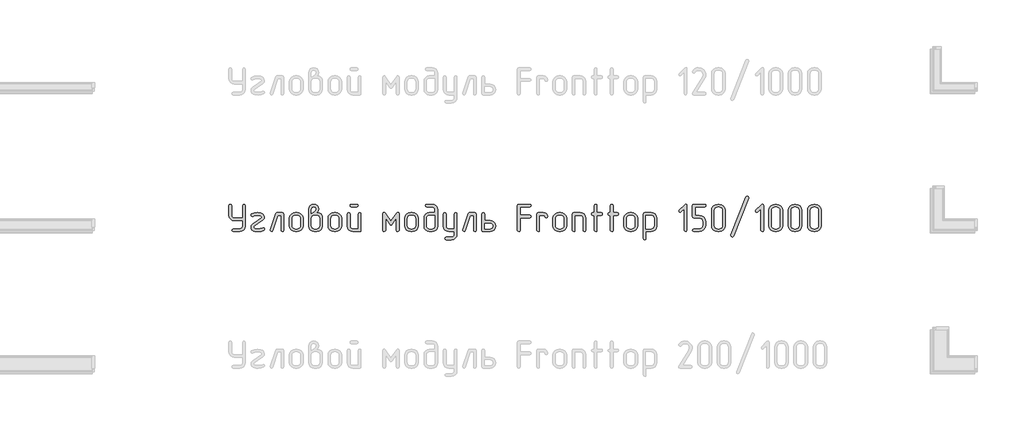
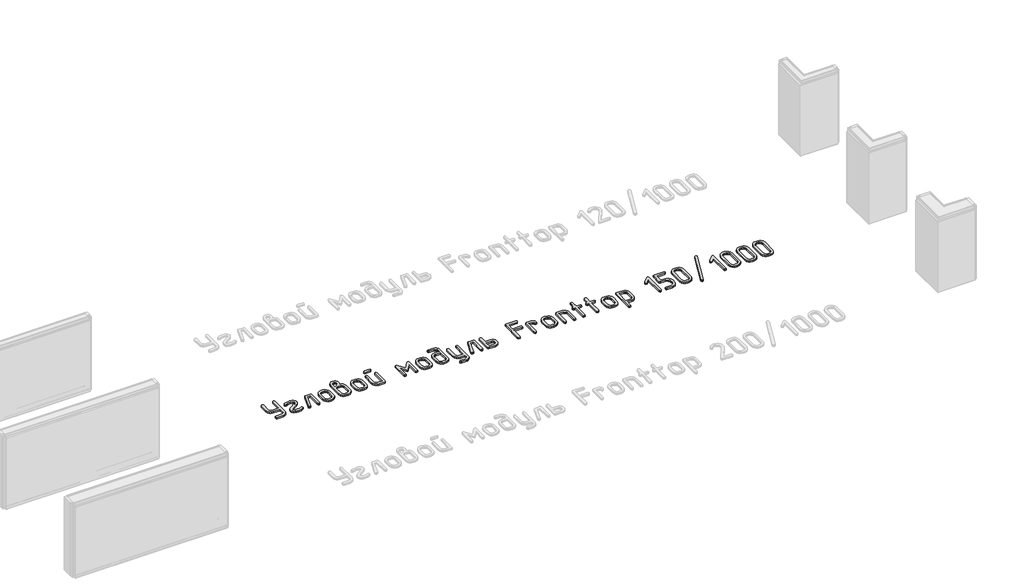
# One storey, part 32 of 37: 1 proxy.
"""IFC4 building model written with IfcOpenShell, lengths in millimetres."""

import ifcopenshell
import ifcopenshell.guid

model = None  # the IFC model being written
_history = None  # IfcOwnerHistory: only IFC2X3 demands one
_inside = {}  # id of a spatial element -> (the spatial element, [elements in it])
_under = {}  # id of a project, library or spatial element -> (it, [spatial elements below it])
_declared = {}  # id of a project -> (the project, [libraries it declares])
_typed = {}  # id of a type object -> (the type object, [elements of that type])
_made_of = {}  # id of a material, layer set ... -> (it, [elements and type objects made of it])


def new_model(schema):
    """Start an empty IFC model of exactly this schema.

    Asked for "IFC4X3", IfcOpenShell would pick the latest addendum, in which some entities
    have other attributes; the version numbers below select the first issue.
    IFC2X3 requires an IfcOwnerHistory on every rooted entity: one is made here for all.
    """
    global model, _history
    if schema == "IFC4X3":
        model = ifcopenshell.file(schema_version=(4, 3, 0, 0))
    else:
        model = ifcopenshell.file(schema=schema)
    _inside.clear()
    _under.clear()
    _declared.clear()
    _typed.clear()
    _made_of.clear()
    _history = None
    if model.schema == "IFC2X3":
        org = make("IfcOrganization", Name="unknown")
        user = make(
            "IfcPersonAndOrganization",
            ThePerson=make("IfcPerson", FamilyName="unknown"),
            TheOrganization=org,
        )
        app = make(
            "IfcApplication",
            ApplicationDeveloper=org,
            Version="unknown",
            ApplicationFullName="unknown",
            ApplicationIdentifier="unknown",
        )
        _history = make(
            "IfcOwnerHistory",
            OwningUser=user,
            OwningApplication=app,
            ChangeAction="ADDED",
            CreationDate=0,
        )
    return model


def make(cls, **values):
    """One entity of the class cls with the attributes given. An attribute that is None is left unset."""
    return model.create_entity(
        cls, **{name: value for name, value in values.items() if value is not None}
    )


def rooted(cls, **values):
    """An entity with a GlobalId (a new one), such as an element, a storey or a relation."""
    return make(cls, GlobalId=ifcopenshell.guid.new(), OwnerHistory=_history, **values)


def si_unit(unit_type, name, prefix=None):
    """IfcSIUnit, for example si_unit("LENGTHUNIT", "METRE", prefix="MILLI")."""
    return make("IfcSIUnit", UnitType=unit_type, Prefix=prefix, Name=name)


def assignment(units):
    """IfcUnitAssignment: the units of a project."""
    return None if units is None else make("IfcUnitAssignment", Units=units)


def point(xyz):
    """IfcCartesianPoint."""
    return None if xyz is None else make("IfcCartesianPoint", Coordinates=xyz)


def direction(xyz):
    """IfcDirection."""
    return None if xyz is None else make("IfcDirection", DirectionRatios=xyz)


def frame(location, z_axis=None, x_axis=None):
    """IfcAxis2Placement3D, a coordinate frame: its origin and axes. An axis left out is left unset."""
    return make(
        "IfcAxis2Placement3D",
        Location=point(location),
        Axis=direction(z_axis),
        RefDirection=direction(x_axis),
    )


def origin():
    """The frame at (0, 0, 0) with its axes left unset."""
    return frame((0.0, 0.0, 0.0))


def origin_with_axes():
    """The frame at (0, 0, 0) with the z axis (0, 0, 1) and the x axis (1, 0, 0) written out."""
    return frame((0.0, 0.0, 0.0), z_axis=(0.0, 0.0, 1.0), x_axis=(1.0, 0.0, 0.0))


def place(relative_to, where):
    """IfcLocalPlacement: puts the frame where relative to a parent placement (None: the world)."""
    return make(
        "IfcLocalPlacement", PlacementRelTo=relative_to, RelativePlacement=where
    )


def context(
    kind, dimensions, precision=None, world=None, true_north=None, identifier=None
):
    """IfcGeometricRepresentationContext, for example the 3D "Model" context."""
    return make(
        "IfcGeometricRepresentationContext",
        ContextIdentifier=identifier,
        ContextType=kind,
        CoordinateSpaceDimension=dimensions,
        Precision=precision,
        WorldCoordinateSystem=world,
        TrueNorth=true_north,
    )


def project(units=None, contexts=None):
    """IfcProject with its units and contexts."""
    return rooted(
        "IfcProject",
        Name="project",
        RepresentationContexts=contexts,
        UnitsInContext=assignment(units),
    )


def spatial(cls, under=None, at=None, **own):
    """A site, building, storey or space (cls), placed at a placement, below another one or the project."""
    s = rooted(cls, ObjectPlacement=at, **own)
    if under is not None:
        _under.setdefault(under.id(), (under, []))[1].append(s)
    return s


def polyline(points):
    """IfcPolyline through the points."""
    return make("IfcPolyline", Points=[point(p) for p in points])


def outline(outer, holes=None, kind="AREA"):
    """IfcArbitraryClosedProfileDef: a profile drawn as a closed curve; with holes, ...WithVoids."""
    if holes is None:
        return make("IfcArbitraryClosedProfileDef", ProfileType=kind, OuterCurve=outer)
    return make(
        "IfcArbitraryProfileDefWithVoids",
        ProfileType=kind,
        OuterCurve=outer,
        InnerCurves=holes,
    )


def extrude(swept, where, along, depth):
    """IfcExtrudedAreaSolid: the profile swept, set in the frame where, extruded along a direction by depth."""
    return make(
        "IfcExtrudedAreaSolid",
        SweptArea=swept,
        Position=where,
        ExtrudedDirection=direction(along),
        Depth=depth,
    )


def shape(context_of_items, identifier, shape_type, items):
    """IfcShapeRepresentation: the items that make up one representation, for example the "Body"."""
    return make(
        "IfcShapeRepresentation",
        ContextOfItems=context_of_items,
        RepresentationIdentifier=identifier,
        RepresentationType=shape_type,
        Items=items,
    )


def made_of(thing, what):
    """Note that an element or type object is made of a material, layer set ...; save() writes the relation."""
    if what is not None:
        _made_of.setdefault(what.id(), (what, []))[1].append(thing)
    return thing


def element(
    cls,
    number,
    at=None,
    inside=None,
    cuts=None,
    type_object=None,
    material=None,
    context=None,
    identifier="Body",
    shape_type=None,
    held_by="IfcProductDefinitionShape",
    body=None,
    shapes=None,
    **own,
):
    """One element of the class cls, such as IfcWall. Its Tag is "e" and its number.

    at: its placement. inside: the storey or other place that contains it. cuts: it is an
    opening in that element (IfcRelVoidsElement). A single representation is given by context,
    identifier, shape_type and body (its items); several are given by shapes. held_by: the class
    of the entity that holds the representations. save() writes the other relations.
    """
    e = rooted(cls, Tag="e%d" % number, ObjectPlacement=at, **own)
    if body is not None:
        shapes = [shape(context, identifier, shape_type, body)]
    if shapes is not None:
        e.Representation = make(held_by, Representations=shapes)
    if inside is not None:
        _inside.setdefault(inside.id(), (inside, []))[1].append(e)
    if cuts is not None:
        rooted(
            "IfcRelVoidsElement", RelatingBuildingElement=cuts, RelatedOpeningElement=e
        )
    if type_object is not None:
        _typed.setdefault(type_object.id(), (type_object, []))[1].append(e)
    return made_of(e, material)


def aggregate(whole, parts):
    """IfcRelAggregates: a whole, such as a stair, and the parts it consists of."""
    return rooted("IfcRelAggregates", RelatingObject=whole, RelatedObjects=parts)


def save(model, path):
    """Write the relations noted so far, then the file.

    IfcRelAggregates (storeys below a building ...), IfcRelContainedInSpatialStructure (elements
    in a storey), IfcRelDefinesByType, IfcRelAssociatesMaterial and IfcRelDeclares: one each for
    every whole, place, type object, material and project.
    """
    for whole, parts in _under.values():
        aggregate(whole, parts)
    for where, things in _inside.values():
        rooted(
            "IfcRelContainedInSpatialStructure",
            RelatedElements=things,
            RelatingStructure=where,
        )
    for kind, things in _typed.values():
        rooted("IfcRelDefinesByType", RelatedObjects=things, RelatingType=kind)
    for what, things in _made_of.values():
        rooted("IfcRelAssociatesMaterial", RelatedObjects=things, RelatingMaterial=what)
    for by, libraries in _declared.values():
        rooted("IfcRelDeclares", RelatingContext=by, RelatedDefinitions=libraries)
    model.write(path)


model = new_model("IFC4")

# Units and contexts
model_context = context("Model", 3, world=origin())
ifc_project = project(units=[si_unit("LENGTHUNIT", "METRE", prefix="MILLI")], contexts=[model_context])

# Site, building, storey
site = spatial("IfcSite", under=ifc_project)
building = spatial("IfcBuilding", under=site)
storey = spatial("IfcBuildingStorey", under=building, Name="Этаж 01", Elevation=0.0)

# Proxy
placement = place(None, origin())
element("IfcBuildingElementProxy", 1, Name="300 мм ГОСТ 2.304", ObjectType="300 мм ГОСТ 2.304", at=placement, inside=storey, context=model_context, shape_type="SweptSolid", body=[
    extrude(outline(polyline([(64282.5947081, -22108.7261154), (64192.9398643, -22108.7261154), (64169.869135, -22104.3522505), (64150.5152523, -22091.2306559), (64137.3936577, -22071.8767732), (64133.0197928, -22048.8060439), (64133.0197928, -21944.2838139), (64137.4124296, -21933.1332743), (64148.3377058, -21928.9659009), (64158.6247356, -21932.9080109), (64163.205092, -21944.2838139), (64163.205092, -22048.8060439), (64165.3357086, -22060.4540402), (64171.7275583, -22070.0183499), (64181.2918679, -22076.4101996), (64192.9398643, -22078.5408162), (64282.5947081, -22078.5408162), (64282.5947081, -21944.2838139), (64286.949801, -21933.1332743), (64297.4620942, -21928.9659009), (64307.9368436, -21932.9080109), (64312.3294804, -21944.2838139), (64312.3294804, -22168.19566), (64307.9556155, -22191.6042844), (64294.8340209, -22211.0707988), (64275.8180333, -22223.8544983), (64252.8599358, -22228.1157314), (64178.0724781, -22228.1157314), (64167.147202, -22223.7606385), (64163.205092, -22213.2483453), (64166.9219385, -22202.736052), (64178.0724781, -22198.3809591), (64252.8599358, -22198.3809591), (64264.2263528, -22196.1940267), (64273.8469783, -22189.6332294), (64280.4077756, -22179.8999722), (64282.5947081, -22168.19566), (64282.5947081, -22108.7261154)])), origin_with_axes(), (0.0, 0.0, 1.0), 20.0),
    extrude(outline(polyline([(64514.9914765, -22214.524838), (64485.4444237, -22225.0746752), (64451.6173658, -22228.5662583), (64430.8180428, -22227.4774851), (64413.0973199, -22224.5866044), (64396.8408093, -22219.4524755), (64384.8643037, -22209.3062353), (64377.4869265, -22195.6496401), (64375.0278008, -22179.984446), (64378.9699108, -22160.7619669), (64391.2467675, -22144.618088), (64486.5331969, -22078.991343), (64491.4139045, -22069.8306304), (64487.5844263, -22060.4071103), (64476.0959915, -22054.0621905), (64442.3815653, -22049.7070976), (64416.2510079, -22052.4290307), (64397.32888, -22060.5948299), (64388.1681673, -22064.1239569), (64377.693418, -22059.5436005), (64373.3007812, -22048.355517), (64379.4579815, -22037.0172579), (64408.0664367, -22024.777945), (64445.0096386, -22020.4228521), (64450.2657853, -22020.4228521), (64479.1370478, -22023.9144352), (64501.85111, -22033.7509382), (64516.7184961, -22049.0313073), (64521.9746427, -22068.9295767), (64517.7134096, -22086.6315276), (64504.9297101, -22102.193476), (64409.5681929, -22168.19566), (64404.3871341, -22179.6090069), (64408.1039806, -22189.8584928), (64417.9029396, -22195.7528858), (64434.3096259, -22197.5174493), (64451.9928049, -22198.3809591), (64478.4612575, -22196.2034127), (64501.0251441, -22187.8686659), (64508.4588371, -22186.1416463), (64519.1588499, -22190.7220026), (64523.3262233, -22201.9100861), (64521.2425366, -22209.1936036), (64514.9914765, -22214.524838)])), origin_with_axes(), (0.0, 0.0, 1.0), 20.0),
    extrude(outline(polyline([(64734.3229662, -22213.2483453), (64730.1555928, -22224.3988849), (64719.45558, -22228.1157314), (64708.9432868, -22224.1736215), (64704.5881939, -22213.2483453), (64704.5881939, -22048.8060439), (64670.0478018, -22048.8060439), (64614.0322964, -22218.0539651), (64608.5884303, -22225.4876581), (64600.5164908, -22228.1157314), (64589.7789341, -22224.1736215), (64585.1985778, -22213.6988721), (64586.0996315, -22208.4427255), (64645.1186493, -22029.133038), (64650.4498837, -22021.5867132), (64659.5355086, -22019.0712716), (64719.45558, -22019.0712716), (64730.6061197, -22022.7881181), (64734.3229662, -22033.9386577), (64734.3229662, -22213.2483453)])), origin_with_axes(), (0.0, 0.0, 1.0), 20.0),
    extrude(outline(polyline([(64945.7702359, -22162.4889865), (64940.9646162, -22187.9812976), (64926.5477569, -22209.3437792), (64905.5231704, -22223.4227434), (64880.143491, -22228.1157314), (64862.1975047, -22228.1157314), (64836.7615094, -22223.4227434), (64815.4177998, -22209.3437792), (64801.0009405, -22187.9812976), (64796.1953207, -22162.4889865), (64796.1953207, -22084.6980165), (64801.0009405, -22059.5436005), (64815.4177998, -22038.2937506), (64837.1744924, -22023.8768913), (64862.1975047, -22019.0712716), (64880.143491, -22019.0712716), (64905.288521, -22023.8862773), (64926.510213, -22038.3312945), (64940.9552302, -22059.5529865), (64945.7702359, -22084.6980165), (64945.7702359, -22162.4889865)]), holes=[polyline([(64916.0354636, -22162.4889865), (64916.0354636, -22084.6980165), (64913.4073903, -22070.9194036), (64905.5231704, -22059.3183371), (64893.9221039, -22051.4341172), (64880.143491, -22048.8060439), (64862.1975047, -22048.8060439), (64848.4282777, -22051.4341172), (64836.8553692, -22059.3183371), (64828.9993072, -22070.9194036), (64826.3806199, -22084.6980165), (64826.3806199, -22162.4889865), (64828.9993072, -22176.2675994), (64836.8553692, -22187.8686659), (64848.4282777, -22195.7528858), (64862.1975047, -22198.3809591), (64880.143491, -22198.3809591), (64893.9221039, -22195.7528858), (64905.5231704, -22187.8686659), (64913.4073903, -22176.2675994), (64916.0354636, -22162.4889865)])]), origin_with_axes(), (0.0, 0.0, 1.0), 20.0),
    extrude(outline(polyline([(65097.2974342, -22019.9723253), (65122.7897453, -22024.2335584), (65142.3501195, -22037.0172579), (65153.5006592, -22055.057104), (65157.2175057, -22078.5408162), (65157.2175057, -22168.19566), (65152.8436408, -22191.6042844), (65139.7220462, -22211.0707988), (65120.5934269, -22223.8544983), (65097.2974342, -22228.1157314), (65067.5626619, -22228.1157314), (65044.4919326, -22223.8544983), (65025.1380499, -22211.0707988), (65012.0164553, -22191.6042844), (65007.6425905, -22168.19566), (65007.6425905, -21983.2543867), (65011.9038236, -21960.3901489), (65024.6875231, -21942.5567943), (65041.4133325, -21932.3636243), (65061.8559884, -21928.9659009), (65081.9607493, -21932.3636243), (65098.573927, -21942.5567943), (65111.0760472, -21960.2775172), (65115.2434206, -21982.8038599), (65111.0760472, -22004.8421318), (65097.2974342, -22019.9723253)]), holes=[polyline([(65127.4827334, -22168.19566), (65127.4827334, -22078.5408162), (65125.295801, -22067.1743991), (65118.7350037, -22057.5537736), (65109.0017464, -22050.9929763), (65097.2974342, -22048.8060439), (65067.5626619, -22048.8060439), (65055.9146656, -22050.9929763), (65046.3503559, -22057.5537736), (65039.9585062, -22067.1743991), (65037.8278896, -22078.5408162), (65037.8278896, -22168.19566), (65039.9585062, -22179.8999722), (65046.3503559, -22189.6332294), (65055.9146656, -22196.1940267), (65067.5626619, -22198.3809591), (65097.2974342, -22198.3809591), (65109.0017464, -22196.1940267), (65118.7350037, -22189.6332294), (65125.295801, -22179.8999722), (65127.4827334, -22168.19566)]), polyline([(65037.8278896, -22029.133038), (65044.8110558, -22025.0032085), (65050.0672025, -22021.248818), (65060.1289688, -22014.0403884), (65067.5626619, -22008.5589783), (65079.8019748, -21997.671246), (65085.5086482, -21983.2543867), (65083.7065408, -21973.1644624), (65078.3002186, -21965.7213834), (65070.4723145, -21961.1316411), (65061.4054616, -21959.601727), (65052.4512404, -21961.1316411), (65044.8110558, -21965.7213834), (65039.5736812, -21973.1644624), (65037.8278896, -21983.2543867), (65037.8278896, -22029.133038)])]), origin_with_axes(), (0.0, 0.0, 1.0), 20.0),
    extrude(outline(polyline([(65368.6647755, -22162.4889865), (65363.8591557, -22187.9812976), (65349.4422964, -22209.3437792), (65328.4177099, -22223.4227434), (65303.0380305, -22228.1157314), (65285.0920442, -22228.1157314), (65259.6560489, -22223.4227434), (65238.3123393, -22209.3437792), (65223.89548, -22187.9812976), (65219.0898602, -22162.4889865), (65219.0898602, -22084.6980165), (65223.89548, -22059.5436005), (65238.3123393, -22038.2937506), (65260.0690319, -22023.8768913), (65285.0920442, -22019.0712716), (65303.0380305, -22019.0712716), (65328.1830605, -22023.8862773), (65349.4047525, -22038.3312945), (65363.8497697, -22059.5529865), (65368.6647755, -22084.6980165), (65368.6647755, -22162.4889865)]), holes=[polyline([(65338.9300032, -22162.4889865), (65338.9300032, -22084.6980165), (65336.3019298, -22070.9194036), (65328.4177099, -22059.3183371), (65316.8166434, -22051.4341172), (65303.0380305, -22048.8060439), (65285.0920442, -22048.8060439), (65271.3228172, -22051.4341172), (65259.7499087, -22059.3183371), (65251.8938467, -22070.9194036), (65249.2751594, -22084.6980165), (65249.2751594, -22162.4889865), (65251.8938467, -22176.2675994), (65259.7499087, -22187.8686659), (65271.3228172, -22195.7528858), (65285.0920442, -22198.3809591), (65303.0380305, -22198.3809591), (65316.8166434, -22195.7528858), (65328.4177099, -22187.8686659), (65336.3019298, -22176.2675994), (65338.9300032, -22162.4889865)])]), origin_with_axes(), (0.0, 0.0, 1.0), 20.0),
    extrude(outline(polyline([(65535.5098868, -21959.1512001), (65475.5898153, -21959.1512001), (65464.6645391, -21954.7961072), (65460.7224291, -21944.2838139), (65464.4392757, -21933.5838012), (65475.5898153, -21928.9659009), (65535.5098868, -21928.9659009), (65546.6604264, -21933.3585378), (65550.3772729, -21944.2838139), (65546.4351629, -21954.5708438), (65535.5098868, -21959.1512001)])), origin_with_axes(), (0.0, 0.0, 1.0), 20.0),
    extrude(outline(polyline([(65580.1120452, -22213.2483453), (65576.3951987, -22224.3988849), (65565.2446591, -22228.1157314), (65490.4572014, -22228.1157314), (65467.3864722, -22223.8544983), (65448.0325894, -22211.0707988), (65434.9109948, -22191.6042844), (65430.53713, -22168.19566), (65430.53713, -22033.9386577), (65434.9297668, -22023.0133815), (65445.855043, -22019.0712716), (65456.1420728, -22022.7881181), (65460.7224291, -22033.9386577), (65460.7224291, -22168.19566), (65462.8530457, -22179.8999722), (65469.2448954, -22189.6332294), (65478.8092051, -22196.1940267), (65490.4572014, -22198.3809591), (65550.3772729, -22198.3809591), (65550.3772729, -22033.9386577), (65554.7323658, -22023.0133815), (65565.2446591, -22019.0712716), (65575.7194084, -22022.7881181), (65580.1120452, -22033.9386577), (65580.1120452, -22213.2483453)])), origin_with_axes(), (0.0, 0.0, 1.0), 20.0),
    extrude(outline(polyline([(65999.1020187, -22213.2483453), (65994.7093818, -22224.1736215), (65984.2346325, -22228.1157314), (65973.4970758, -22224.3988849), (65969.3672464, -22213.2483453), (65969.3672464, -22080.2678358), (65921.6864877, -22147.2461613), (65915.5480594, -22153.1030104), (65909.4471749, -22155.0552934), (65903.121027, -22153.1030104), (65897.207862, -22147.2461613), (65849.9776303, -22080.2678358), (65849.9776303, -22213.2483453), (65845.3972739, -22224.1736215), (65835.1102441, -22228.1157314), (65823.9597045, -22224.3988849), (65819.7923311, -22213.2483453), (65819.7923311, -22033.9386577), (65823.5091776, -22021.0235546), (65832.9326977, -22016.4431983), (65840.666742, -22018.6395167), (65847.349557, -22025.2284719), (65909.4471749, -22112.6306814), (65971.9953197, -22025.2284719), (65978.7532225, -22018.6395167), (65985.9616521, -22016.4431983), (65995.3851721, -22021.0235546), (65999.1020187, -22033.9386577), (65999.1020187, -22213.2483453)])), origin_with_axes(), (0.0, 0.0, 1.0), 20.0),
    extrude(outline(polyline([(66209.6482347, -22162.4889865), (66204.8426149, -22187.9812976), (66190.4257556, -22209.3437792), (66169.4011692, -22223.4227434), (66144.0214898, -22228.1157314), (66126.0755035, -22228.1157314), (66100.6395082, -22223.4227434), (66079.2957985, -22209.3437792), (66064.8789392, -22187.9812976), (66060.0733195, -22162.4889865), (66060.0733195, -22084.6980165), (66064.8789392, -22059.5436005), (66079.2957985, -22038.2937506), (66101.0524911, -22023.8768913), (66126.0755035, -22019.0712716), (66144.0214898, -22019.0712716), (66169.1665198, -22023.8862773), (66190.3882117, -22038.3312945), (66204.833229, -22059.5529865), (66209.6482347, -22084.6980165), (66209.6482347, -22162.4889865)]), holes=[polyline([(66179.9134624, -22162.4889865), (66179.9134624, -22084.6980165), (66177.2853891, -22070.9194036), (66169.4011692, -22059.3183371), (66157.8001027, -22051.4341172), (66144.0214898, -22048.8060439), (66126.0755035, -22048.8060439), (66112.3062765, -22051.4341172), (66100.733368, -22059.3183371), (66092.877306, -22070.9194036), (66090.2586186, -22084.6980165), (66090.2586186, -22162.4889865), (66092.877306, -22176.2675994), (66100.733368, -22187.8686659), (66112.3062765, -22195.7528858), (66126.0755035, -22198.3809591), (66144.0214898, -22198.3809591), (66157.8001027, -22195.7528858), (66169.4011692, -22187.8686659), (66177.2853891, -22176.2675994), (66179.9134624, -22162.4889865)])]), origin_with_axes(), (0.0, 0.0, 1.0), 20.0),
    extrude(outline(polyline([(66391.3607322, -22019.0712716), (66391.3607322, -21988.8859724), (66389.1737997, -21977.2379761), (66382.6130024, -21967.6736664), (66372.8797452, -21961.2818167), (66361.175433, -21959.1512001), (66301.7058884, -21959.1512001), (66290.7806122, -21954.7961072), (66286.8385022, -21944.2838139), (66290.5553488, -21933.5838012), (66301.7058884, -21928.9659009), (66361.175433, -21928.9659009), (66384.4714257, -21933.3397658), (66403.600045, -21946.4613604), (66416.7216396, -21965.8152431), (66421.0955045, -21988.8859724), (66421.0955045, -22168.19566), (66416.7216396, -22191.6042844), (66403.600045, -22211.0707988), (66384.4714257, -22223.8544983), (66361.175433, -22228.1157314), (66331.4406607, -22228.1157314), (66308.3699314, -22223.8544983), (66289.0160487, -22211.0707988), (66275.8944541, -22191.6042844), (66271.5205892, -22168.19566), (66271.5205892, -22078.5408162), (66275.8944541, -22055.8079821), (66289.0160487, -22036.566731), (66308.3699314, -22023.4451364), (66331.4406607, -22019.0712716), (66391.3607322, -22019.0712716)]), holes=[polyline([(66391.3607322, -22048.8060439), (66331.4406607, -22048.8060439), (66319.7926643, -22050.9929763), (66310.2283547, -22057.5537736), (66303.836505, -22067.1743991), (66301.7058884, -22078.5408162), (66301.7058884, -22168.19566), (66303.836505, -22179.8999722), (66310.2283547, -22189.6332294), (66319.7926643, -22196.1940267), (66331.4406607, -22198.3809591), (66361.175433, -22198.3809591), (66372.8797452, -22196.1940267), (66382.6130024, -22189.6332294), (66389.1737997, -22179.8999722), (66391.3607322, -22168.19566), (66391.3607322, -22048.8060439)])]), origin_with_axes(), (0.0, 0.0, 1.0), 20.0),
    extrude(outline(polyline([(66602.8080019, -22228.1157314), (66542.8879304, -22228.1157314), (66519.8172012, -22223.8544983), (66500.4633184, -22211.0707988), (66487.3417238, -22191.6042844), (66482.967859, -22168.19566), (66482.967859, -22033.9386577), (66487.3604958, -22023.0133815), (66498.285772, -22019.0712716), (66508.5728018, -22022.7881181), (66513.1531581, -22033.9386577), (66513.1531581, -22168.19566), (66515.2837747, -22179.8999722), (66521.6756244, -22189.6332294), (66531.2399341, -22196.1940267), (66542.8879304, -22198.3809591), (66602.8080019, -22198.3809591), (66602.8080019, -22033.9386577), (66607.1630948, -22023.0133815), (66617.6753881, -22019.0712716), (66628.1501374, -22022.7881181), (66632.5427742, -22033.9386577), (66632.5427742, -22257.8505038), (66628.2815411, -22281.1464965), (66615.4978416, -22300.2751158), (66596.0313272, -22313.3967104), (66572.6227028, -22317.7705752), (66513.1531581, -22317.7705752), (66502.2278819, -22313.3779384), (66498.285772, -22302.9031891), (66502.0026185, -22292.3908958), (66513.1531581, -22288.0358029), (66572.6227028, -22288.0358029), (66584.327015, -22285.8488705), (66594.0602722, -22279.2880732), (66600.6210695, -22269.554816), (66602.8080019, -22257.8505038), (66602.8080019, -22228.1157314)])), origin_with_axes(), (0.0, 0.0, 1.0), 20.0),
    extrude(outline(polyline([(66843.990044, -22213.2483453), (66839.8226706, -22224.3988849), (66829.1226578, -22228.1157314), (66818.6103646, -22224.1736215), (66814.2552717, -22213.2483453), (66814.2552717, -22048.8060439), (66779.7148796, -22048.8060439), (66723.6993742, -22218.0539651), (66718.255508, -22225.4876581), (66710.1835686, -22228.1157314), (66699.4460119, -22224.1736215), (66694.8656556, -22213.6988721), (66695.7667093, -22208.4427255), (66754.7857271, -22029.133038), (66760.1169615, -22021.5867132), (66769.2025864, -22019.0712716), (66829.1226578, -22019.0712716), (66840.2731974, -22022.7881181), (66843.990044, -22033.9386577), (66843.990044, -22213.2483453)])), origin_with_axes(), (0.0, 0.0, 1.0), 20.0),
    extrude(outline(polyline([(66936.0476976, -22108.7261154), (66995.5172423, -22108.7261154), (67021.0095534, -22113.3252436), (67040.5699276, -22127.1226285), (67051.7204672, -22145.4628258), (67055.4373137, -22168.19566), (67051.8330989, -22190.9472661), (67041.0204544, -22209.3437792), (67021.1221851, -22223.4227434), (66995.5172423, -22228.1157314), (66921.1803115, -22228.1157314), (66909.6918767, -22224.3988849), (66905.8623985, -22213.2483453), (66905.8623985, -22033.9386577), (66910.2550353, -22023.0133815), (66921.1803115, -22019.0712716), (66931.4673413, -22022.7881181), (66936.0476976, -22033.9386577), (66936.0476976, -22108.7261154)]), holes=[polyline([(66936.0476976, -22138.4608877), (66936.0476976, -22198.3809591), (66995.5172423, -22198.3809591), (67008.3009417, -22196.1377108), (67017.8183215, -22189.407966), (67023.7314864, -22179.6183929), (67025.7025414, -22168.19566), (67023.8441182, -22157.1577521), (67018.2688483, -22147.6216003), (67008.6388369, -22140.7510658), (66995.5172423, -22138.4608877), (66936.0476976, -22138.4608877)])]), origin_with_axes(), (0.0, 0.0, 1.0), 20.0),
    extrude(outline(polyline([(67325.3028988, -22048.355517), (67429.8251287, -22048.355517), (67440.9756683, -22052.5228904), (67444.6925149, -22063.2229032), (67440.7504049, -22073.9604598), (67429.8251287, -22078.5408162), (67325.3028988, -22078.5408162), (67325.3028988, -22213.2483453), (67321.1355254, -22224.3988849), (67310.4355126, -22228.1157314), (67299.697956, -22224.1736215), (67295.1175996, -22213.2483453), (67295.1175996, -21944.2838139), (67298.9470779, -21932.7953792), (67310.4355126, -21928.9659009), (67429.8251287, -21928.9659009), (67440.9756683, -21933.3585378), (67444.6925149, -21944.2838139), (67440.7504049, -21954.5708438), (67429.8251287, -21959.1512001), (67325.3028988, -21959.1512001), (67325.3028988, -22048.355517)])), origin_with_axes(), (0.0, 0.0, 1.0), 20.0),
    extrude(outline(polyline([(67626.4050123, -22063.67343), (67622.2376389, -22074.8239697), (67611.5376262, -22078.5408162), (67600.8000695, -22074.5987062), (67596.2197132, -22063.67343), (67592.0523398, -22053.1986807), (67581.352327, -22048.8060439), (67536.7501685, -22048.8060439), (67536.7501685, -22213.2483453), (67532.5827951, -22224.3988849), (67521.8827824, -22228.1157314), (67511.1452257, -22224.1736215), (67506.5648694, -22213.2483453), (67506.5648694, -22033.9386577), (67510.3943476, -22022.7881181), (67521.8827824, -22019.0712716), (67581.352327, -22019.0712716), (67598.8477865, -22022.5628547), (67613.3021897, -22032.1740942), (67622.9134292, -22046.403234), (67626.4050123, -22063.67343)])), origin_with_axes(), (0.0, 0.0, 1.0), 20.0),
    extrude(outline(polyline([(67833.947716, -22162.4889865), (67829.1420963, -22187.9812976), (67814.7252369, -22209.3437792), (67793.7006505, -22223.4227434), (67768.3209711, -22228.1157314), (67750.3749848, -22228.1157314), (67724.9389895, -22223.4227434), (67703.5952798, -22209.3437792), (67689.1784205, -22187.9812976), (67684.3728008, -22162.4889865), (67684.3728008, -22084.6980165), (67689.1784205, -22059.5436005), (67703.5952798, -22038.2937506), (67725.3519725, -22023.8768913), (67750.3749848, -22019.0712716), (67768.3209711, -22019.0712716), (67793.4660011, -22023.8862773), (67814.687693, -22038.3312945), (67829.1327103, -22059.5529865), (67833.947716, -22084.6980165), (67833.947716, -22162.4889865)]), holes=[polyline([(67804.2129437, -22162.4889865), (67804.2129437, -22084.6980165), (67801.5848704, -22070.9194036), (67793.7006505, -22059.3183371), (67782.099584, -22051.4341172), (67768.3209711, -22048.8060439), (67750.3749848, -22048.8060439), (67736.6057578, -22051.4341172), (67725.0328493, -22059.3183371), (67717.1767873, -22070.9194036), (67714.5580999, -22084.6980165), (67714.5580999, -22162.4889865), (67717.1767873, -22176.2675994), (67725.0328493, -22187.8686659), (67736.6057578, -22195.7528858), (67750.3749848, -22198.3809591), (67768.3209711, -22198.3809591), (67782.099584, -22195.7528858), (67793.7006505, -22187.8686659), (67801.5848704, -22176.2675994), (67804.2129437, -22162.4889865)])]), origin_with_axes(), (0.0, 0.0, 1.0), 20.0),
    extrude(outline(polyline([(68045.3949858, -22213.2483453), (68041.2276124, -22224.3988849), (68030.5275996, -22228.1157314), (68020.0153064, -22224.1736215), (68015.6602135, -22213.2483453), (68015.6602135, -22078.5408162), (68013.473281, -22067.1743991), (68006.9124837, -22057.5537736), (67997.1792265, -22050.9929763), (67985.4749143, -22048.8060439), (67926.0053697, -22048.8060439), (67926.0053697, -22213.2483453), (67921.8379963, -22224.3988849), (67911.1379835, -22228.1157314), (67900.4004269, -22224.1736215), (67895.8200705, -22213.2483453), (67895.8200705, -22033.9386577), (67899.6495488, -22022.7881181), (67911.1379835, -22019.0712716), (67985.4749143, -22019.0712716), (68008.770907, -22023.3325047), (68027.8995263, -22036.1162042), (68041.0211209, -22055.4700869), (68045.3949858, -22078.5408162), (68045.3949858, -22213.2483453)])), origin_with_axes(), (0.0, 0.0, 1.0), 20.0),
    extrude(outline(polyline([(68167.1874117, -22019.0712716), (68212.2400971, -22019.0712716), (68223.3906367, -22023.238645), (68227.1074832, -22033.9386577), (68223.1653733, -22044.2256875), (68212.2400971, -22048.8060439), (68167.1874117, -22048.8060439), (68167.1874117, -22213.2483453), (68163.0200384, -22224.3988849), (68152.3200256, -22228.1157314), (68141.8077324, -22224.1736215), (68137.4526394, -22213.2483453), (68137.4526394, -22048.8060439), (68122.5852533, -22048.8060439), (68111.4347137, -22044.450951), (68107.2673403, -22033.9386577), (68111.2094502, -22023.4639084), (68122.5852533, -22019.0712716), (68137.4526394, -22019.0712716), (68137.4526394, -21944.2838139), (68141.8077324, -21933.1332743), (68152.3200256, -21928.9659009), (68162.7947749, -21932.9080109), (68167.1874117, -21944.2838139), (68167.1874117, -22019.0712716)])), origin_with_axes(), (0.0, 0.0, 1.0), 20.0),
    extrude(outline(polyline([(68344.9953431, -22019.0712716), (68390.0480284, -22019.0712716), (68401.1985681, -22023.238645), (68404.9154146, -22033.9386577), (68400.9733046, -22044.2256875), (68390.0480284, -22048.8060439), (68344.9953431, -22048.8060439), (68344.9953431, -22213.2483453), (68340.8279697, -22224.3988849), (68330.127957, -22228.1157314), (68319.6156637, -22224.1736215), (68315.2605708, -22213.2483453), (68315.2605708, -22048.8060439), (68300.3931847, -22048.8060439), (68289.2426451, -22044.450951), (68285.0752717, -22033.9386577), (68289.0173816, -22023.4639084), (68300.3931847, -22019.0712716), (68315.2605708, -22019.0712716), (68315.2605708, -21944.2838139), (68319.6156637, -21933.1332743), (68330.127957, -21928.9659009), (68340.6027063, -21932.9080109), (68344.9953431, -21944.2838139), (68344.9953431, -22019.0712716)])), origin_with_axes(), (0.0, 0.0, 1.0), 20.0),
    extrude(outline(polyline([(68612.4581183, -22162.4889865), (68607.6524985, -22187.9812976), (68593.2356392, -22209.3437792), (68572.2110527, -22223.4227434), (68546.8313734, -22228.1157314), (68528.885387, -22228.1157314), (68503.4493918, -22223.4227434), (68482.1056821, -22209.3437792), (68467.6888228, -22187.9812976), (68462.883203, -22162.4889865), (68462.883203, -22084.6980165), (68467.6888228, -22059.5436005), (68482.1056821, -22038.2937506), (68503.8623747, -22023.8768913), (68528.885387, -22019.0712716), (68546.8313734, -22019.0712716), (68571.9764033, -22023.8862773), (68593.1980953, -22038.3312945), (68607.6431126, -22059.5529865), (68612.4581183, -22084.6980165), (68612.4581183, -22162.4889865)]), holes=[polyline([(68582.723346, -22162.4889865), (68582.723346, -22084.6980165), (68580.0952727, -22070.9194036), (68572.2110527, -22059.3183371), (68560.6099863, -22051.4341172), (68546.8313734, -22048.8060439), (68528.885387, -22048.8060439), (68515.1161601, -22051.4341172), (68503.5432515, -22059.3183371), (68495.6871895, -22070.9194036), (68493.0685022, -22084.6980165), (68493.0685022, -22162.4889865), (68495.6871895, -22176.2675994), (68503.5432515, -22187.8686659), (68515.1161601, -22195.7528858), (68528.885387, -22198.3809591), (68546.8313734, -22198.3809591), (68560.6099863, -22195.7528858), (68572.2110527, -22187.8686659), (68580.0952727, -22176.2675994), (68582.723346, -22162.4889865)])]), origin_with_axes(), (0.0, 0.0, 1.0), 20.0),
    extrude(outline(polyline([(68704.515772, -22228.1157314), (68704.515772, -22302.9031891), (68700.3483986, -22314.0537287), (68689.6483858, -22317.7705752), (68678.9108291, -22313.8284653), (68674.3304728, -22302.9031891), (68674.3304728, -22033.9386577), (68678.1599511, -22022.7881181), (68689.6483858, -22019.0712716), (68763.9853166, -22019.0712716), (68787.2813093, -22023.3325047), (68806.4099286, -22036.1162042), (68819.5315232, -22055.4700869), (68823.9053881, -22078.5408162), (68823.9053881, -22168.19566), (68819.5315232, -22191.6042844), (68806.4099286, -22211.0707988), (68787.2813093, -22223.8544983), (68763.9853166, -22228.1157314), (68704.515772, -22228.1157314)]), holes=[polyline([(68704.515772, -22198.3809591), (68763.9853166, -22198.3809591), (68775.6896288, -22196.1940267), (68785.422886, -22189.6332294), (68791.9836833, -22179.8999722), (68794.1706157, -22168.19566), (68794.1706157, -22078.5408162), (68791.9836833, -22067.1743991), (68785.422886, -22057.5537736), (68775.6896288, -22050.9929763), (68763.9853166, -22048.8060439), (68704.515772, -22048.8060439), (68704.515772, -22198.3809591)])]), origin_with_axes(), (0.0, 0.0, 1.0), 20.0),
    extrude(outline(polyline([(69153.2405177, -22213.2483453), (69149.0731443, -22224.3988849), (69138.3731316, -22228.1157314), (69128.0861018, -22224.1736215), (69123.5057454, -22213.2483453), (69123.5057454, -21980.1757866), (69088.9653533, -22014.2656518), (69078.9035869, -22019.0712716), (69068.1660303, -22014.4909152), (69063.5856739, -22003.7533586), (69068.3912937, -21993.3161531), (69127.8608383, -21933.7715207), (69141.0012049, -21927.2388813), (69149.7489346, -21931.6315182), (69153.2405177, -21944.2838139), (69153.2405177, -22213.2483453)])), origin_with_axes(), (0.0, 0.0, 1.0), 20.0),
    extrude(outline(polyline([(69242.7451859, -21959.1512001), (69242.7451859, -22048.8060439), (69287.3473444, -22048.8060439), (69316.0778172, -22054.278068), (69340.2467057, -22070.6941402), (69356.6627779, -22094.8630286), (69362.134802, -22123.5935015), (69362.134802, -22153.3282738), (69356.6627779, -22182.1056766), (69340.2467057, -22206.2651791), (69316.0778172, -22222.6530933), (69287.3473444, -22228.1157314), (69227.8777997, -22228.1157314), (69216.7272601, -22223.7606385), (69212.5598867, -22213.2483453), (69216.5019967, -22202.736052), (69227.8777997, -22198.3809591), (69287.3473444, -22198.3809591), (69304.8428038, -22194.889376), (69319.297207, -22185.0528731), (69328.9084466, -22170.5984699), (69332.4000297, -22153.3282738), (69332.4000297, -22123.5935015), (69328.9084466, -22106.098042), (69319.297207, -22091.6436388), (69304.8428038, -22082.0323993), (69287.3473444, -22078.5408162), (69227.8777997, -22078.5408162), (69216.389365, -22074.8239697), (69212.5598867, -22063.67343), (69212.5598867, -21944.2838139), (69216.389365, -21932.7953792), (69227.8777997, -21928.9659009), (69347.2674158, -21928.9659009), (69358.4179554, -21933.3585378), (69362.134802, -21944.2838139), (69358.192692, -21954.5708438), (69347.2674158, -21959.1512001), (69242.7451859, -21959.1512001)])), origin_with_axes(), (0.0, 0.0, 1.0), 20.0),
    extrude(outline(polyline([(69573.5820717, -22162.4889865), (69568.776452, -22187.9812976), (69554.3595927, -22209.3437792), (69533.3350062, -22223.4227434), (69507.9553268, -22228.1157314), (69490.0093405, -22228.1157314), (69464.5733452, -22223.4227434), (69443.2296355, -22209.3437792), (69428.8127762, -22187.9812976), (69424.0071565, -22162.4889865), (69424.0071565, -21995.0431727), (69428.8127762, -21969.8887568), (69443.2296355, -21948.6389069), (69464.7610647, -21933.8841524), (69490.0093405, -21928.9659009), (69507.9553268, -21928.9659009), (69533.1003568, -21933.7809067), (69554.3220488, -21948.2259239), (69568.767066, -21969.5602476), (69573.5820717, -21995.0431727), (69573.5820717, -22162.4889865)]), holes=[polyline([(69543.8472994, -22162.4889865), (69543.8472994, -21995.0431727), (69541.2192261, -21981.2645598), (69533.3350062, -21969.6634933), (69521.7339397, -21961.7792734), (69507.9553268, -21959.1512001), (69490.0093405, -21959.1512001), (69476.2401135, -21961.7792734), (69464.667205, -21969.6634933), (69456.811143, -21981.2645598), (69454.1924556, -21995.0431727), (69454.1924556, -22162.4889865), (69456.811143, -22176.2675994), (69464.667205, -22187.8686659), (69476.2401135, -22195.7528858), (69490.0093405, -22198.3809591), (69507.9553268, -22198.3809591), (69521.7339397, -22195.7528858), (69533.3350062, -22187.8686659), (69541.2192261, -22176.2675994), (69543.8472994, -22162.4889865)])]), origin_with_axes(), (0.0, 0.0, 1.0), 20.0),
    extrude(outline(polyline([(69829.1809731, -21859.8851168), (69664.7386717, -22278.4245634), (69659.0695421, -22285.4077296), (69651.2228661, -22288.0358029), (69640.260046, -22283.8684295), (69635.4544262, -22273.1684168), (69636.3554799, -22267.4617433), (69800.7977813, -21848.9973845), (69806.4669109, -21841.9391305), (69814.3135869, -21839.3110572), (69825.276407, -21843.703694), (69830.0820268, -21854.1784433), (69829.1809731, -21859.8851168)])), origin_with_axes(), (0.0, 0.0, 1.0), 20.0),
    extrude(outline(polyline([(69994.223977, -22213.2483453), (69990.0566036, -22224.3988849), (69979.3565908, -22228.1157314), (69969.069561, -22224.1736215), (69964.4892047, -22213.2483453), (69964.4892047, -21980.1757866), (69929.9488126, -22014.2656518), (69919.8870462, -22019.0712716), (69909.1494895, -22014.4909152), (69904.5691332, -22003.7533586), (69909.374753, -21993.3161531), (69968.8442976, -21933.7715207), (69981.9846641, -21927.2388813), (69990.7323939, -21931.6315182), (69994.223977, -21944.2838139), (69994.223977, -22213.2483453)])), origin_with_axes(), (0.0, 0.0, 1.0), 20.0),
    extrude(outline(polyline([(70203.1182612, -22162.4889865), (70198.3126415, -22187.9812976), (70183.8957822, -22209.3437792), (70162.8711957, -22223.4227434), (70137.4915163, -22228.1157314), (70119.54553, -22228.1157314), (70094.1095347, -22223.4227434), (70072.765825, -22209.3437792), (70058.3489657, -22187.9812976), (70053.543346, -22162.4889865), (70053.543346, -21995.0431727), (70058.3489657, -21969.8887568), (70072.765825, -21948.6389069), (70094.2972542, -21933.8841524), (70119.54553, -21928.9659009), (70137.4915163, -21928.9659009), (70162.6365463, -21933.7809067), (70183.8582383, -21948.2259239), (70198.3032555, -21969.5602476), (70203.1182612, -21995.0431727), (70203.1182612, -22162.4889865)]), holes=[polyline([(70173.3834889, -22162.4889865), (70173.3834889, -21995.0431727), (70170.7554156, -21981.2645598), (70162.8711957, -21969.6634933), (70151.2701292, -21961.7792734), (70137.4915163, -21959.1512001), (70119.54553, -21959.1512001), (70105.776303, -21961.7792734), (70094.2033945, -21969.6634933), (70086.3473325, -21981.2645598), (70083.7286451, -21995.0431727), (70083.7286451, -22162.4889865), (70086.3473325, -22176.2675994), (70094.2033945, -22187.8686659), (70105.776303, -22195.7528858), (70119.54553, -22198.3809591), (70137.4915163, -22198.3809591), (70151.2701292, -22195.7528858), (70162.8711957, -22187.8686659), (70170.7554156, -22176.2675994), (70173.3834889, -22162.4889865)])]), origin_with_axes(), (0.0, 0.0, 1.0), 20.0),
    extrude(outline(polyline([(70414.565531, -22162.4889865), (70409.7599112, -22187.9812976), (70395.3430519, -22209.3437792), (70374.3184654, -22223.4227434), (70348.938786, -22228.1157314), (70330.9927997, -22228.1157314), (70305.5568045, -22223.4227434), (70284.2130948, -22209.3437792), (70269.7962355, -22187.9812976), (70264.9906157, -22162.4889865), (70264.9906157, -21995.0431727), (70269.7962355, -21969.8887568), (70284.2130948, -21948.6389069), (70305.744524, -21933.8841524), (70330.9927997, -21928.9659009), (70348.938786, -21928.9659009), (70374.083816, -21933.7809067), (70395.305508, -21948.2259239), (70409.7505252, -21969.5602476), (70414.565531, -21995.0431727), (70414.565531, -22162.4889865)]), holes=[polyline([(70384.8307587, -22162.4889865), (70384.8307587, -21995.0431727), (70382.2026854, -21981.2645598), (70374.3184654, -21969.6634933), (70362.717399, -21961.7792734), (70348.938786, -21959.1512001), (70330.9927997, -21959.1512001), (70317.2235728, -21961.7792734), (70305.6506642, -21969.6634933), (70297.7946022, -21981.2645598), (70295.1759149, -21995.0431727), (70295.1759149, -22162.4889865), (70297.7946022, -22176.2675994), (70305.6506642, -22187.8686659), (70317.2235728, -22195.7528858), (70330.9927997, -22198.3809591), (70348.938786, -22198.3809591), (70362.717399, -22195.7528858), (70374.3184654, -22187.8686659), (70382.2026854, -22176.2675994), (70384.8307587, -22162.4889865)])]), origin_with_axes(), (0.0, 0.0, 1.0), 20.0),
    extrude(outline(polyline([(70626.0128007, -22162.4889865), (70621.207181, -22187.9812976), (70606.7903217, -22209.3437792), (70585.7657352, -22223.4227434), (70560.3860558, -22228.1157314), (70542.4400695, -22228.1157314), (70517.0040742, -22223.4227434), (70495.6603646, -22209.3437792), (70481.2435053, -22187.9812976), (70476.4378855, -22162.4889865), (70476.4378855, -21995.0431727), (70481.2435053, -21969.8887568), (70495.6603646, -21948.6389069), (70517.1917937, -21933.8841524), (70542.4400695, -21928.9659009), (70560.3860558, -21928.9659009), (70585.5310858, -21933.7809067), (70606.7527778, -21948.2259239), (70621.197795, -21969.5602476), (70626.0128007, -21995.0431727), (70626.0128007, -22162.4889865)]), holes=[polyline([(70596.2780284, -22162.4889865), (70596.2780284, -21995.0431727), (70593.6499551, -21981.2645598), (70585.7657352, -21969.6634933), (70574.1646687, -21961.7792734), (70560.3860558, -21959.1512001), (70542.4400695, -21959.1512001), (70528.6708425, -21961.7792734), (70517.097934, -21969.6634933), (70509.241872, -21981.2645598), (70506.6231847, -21995.0431727), (70506.6231847, -22162.4889865), (70509.241872, -22176.2675994), (70517.097934, -22187.8686659), (70528.6708425, -22195.7528858), (70542.4400695, -22198.3809591), (70560.3860558, -22198.3809591), (70574.1646687, -22195.7528858), (70585.7657352, -22187.8686659), (70593.6499551, -22176.2675994), (70596.2780284, -22162.4889865)])]), origin_with_axes(), (0.0, 0.0, 1.0), 20.0),
])

save(model, "model.ifc")
